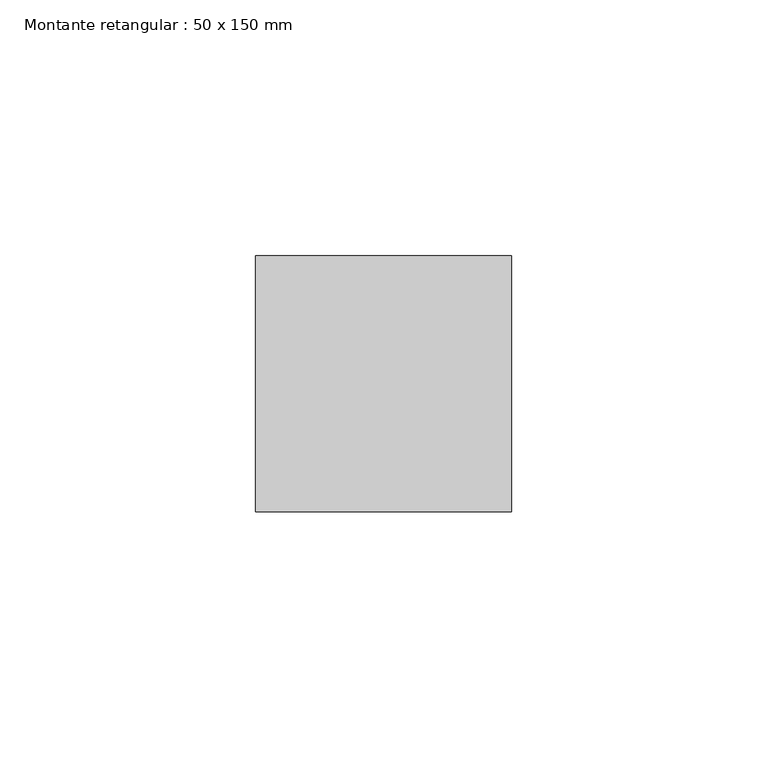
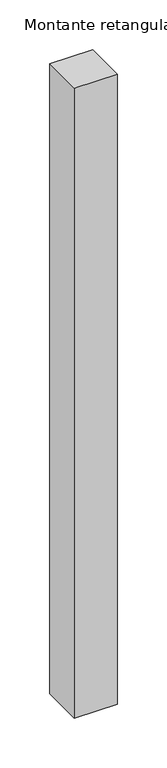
"""IFC4 building model written with IfcOpenShell, lengths in millimetres: member geometry, Montante retangular : 50 x 150 mm."""

from ifc_helpers import new_model, si_unit, frame, origin, place, context, project, spatial, polyline, outline, extrude, source, transform, mapped, element, save


def montante_retangular_50_x_150_mm_38ea3ab1(model_context):
    return source(origin(), model_context, "Body", "SweptSolid", [
        extrude(outline(polyline([(25.0, 25.0), (25.0, -25.0), (-25.0, -25.0), (-25.0, 25.0), (25.0, 25.0)])), frame((0.0, 0.0, -775.5043376), z_axis=(0.0, 0.0, 1.0), x_axis=(1.0, 0.0, 0.0)), (0.0, 0.0, 1.0), 775.5043376),
    ])


if __name__ == "__main__":
    model = new_model("IFC4")
    model_context = context("Model", 3, world=origin())
    ifc_project = project(units=[si_unit("LENGTHUNIT", "METRE", prefix="MILLI")], contexts=[model_context])
    site = spatial("IfcSite", under=ifc_project)
    building = spatial("IfcBuilding", under=site)
    placement = place(None, origin())
    montante_retangular_50_x_150_mm_shape = montante_retangular_50_x_150_mm_38ea3ab1(model_context)
    element("IfcMember", 1, ObjectType="Montante retangular : 50 x 150 mm", at=placement, inside=building, context=model_context, shape_type="MappedRepresentation", body=[
        mapped(montante_retangular_50_x_150_mm_shape, transform((0.0, 0.0, 0.0), x_axis=(1.0, 0.0, 0.0), y_axis=(0.0, 1.0, 0.0), z_axis=(0.0, 0.0, 1.0))),
    ])
    save(model, "model.ifc")
